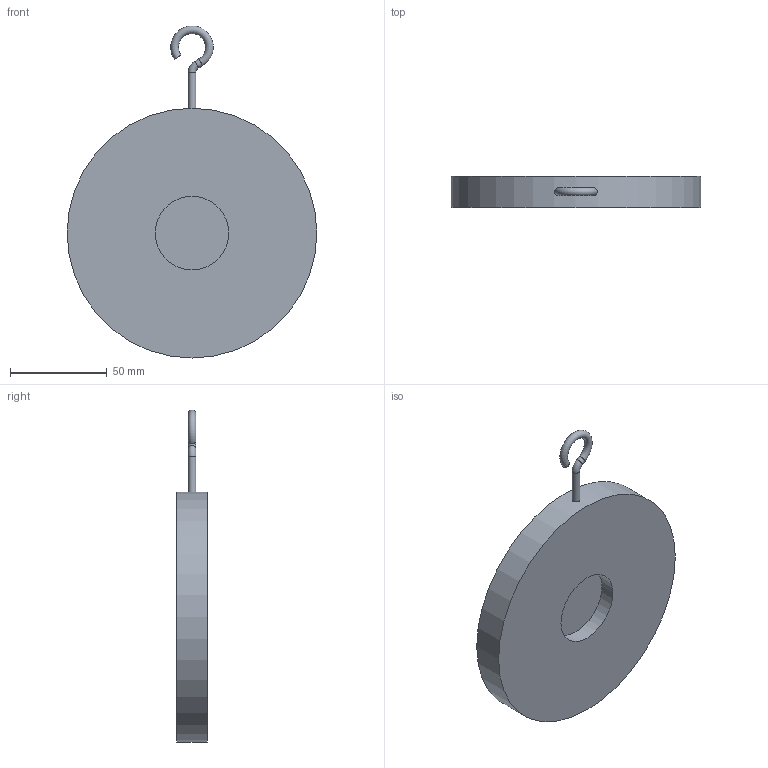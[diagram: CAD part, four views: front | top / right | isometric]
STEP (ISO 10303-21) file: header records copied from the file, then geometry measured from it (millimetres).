
FILE_DESCRIPTION(('STEP AP203'), '1');
FILE_NAME('孰囡囗 钺疣蝽 钿眍耱忸瘅囹 戾骠豚眦邂 008C.Y DN65', '', ('UNSPECIFIED'), ('UNSPECIFIED'), 'ASCON STEP Converter 1.6', 'ASCON Math Kernel', '');
FILE_SCHEMA(('CONFIG_CONTROL_DESIGN'));
Length unit declared in the file: millimetre
Bounding box: 129 x 16 x 171.48 mm (x, y, z)
Volume: 182231 mm3; surface area: 36660.8 mm2
Topology: 1 solids, 1 shells, 32 faces, 72 edges, 47 vertices
Faces by surface type: plane 17, cylinder 12, torus 2, cone 1
Full cylindrical faces by diameter (mm): 4 x2, 38 x1, 129 x1
Entity records: 1357 total; most frequent: CARTESIAN_POINT 358, DIRECTION 152, ORIENTED_EDGE 130, EDGE_CURVE 65, AXIS2_PLACEMENT_3D 59, VERTEX_POINT 47, EDGE_LOOP 44, LINE 34
